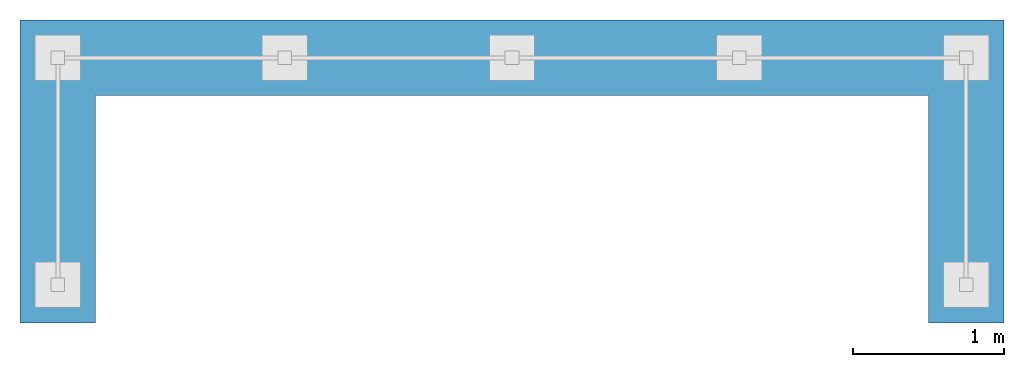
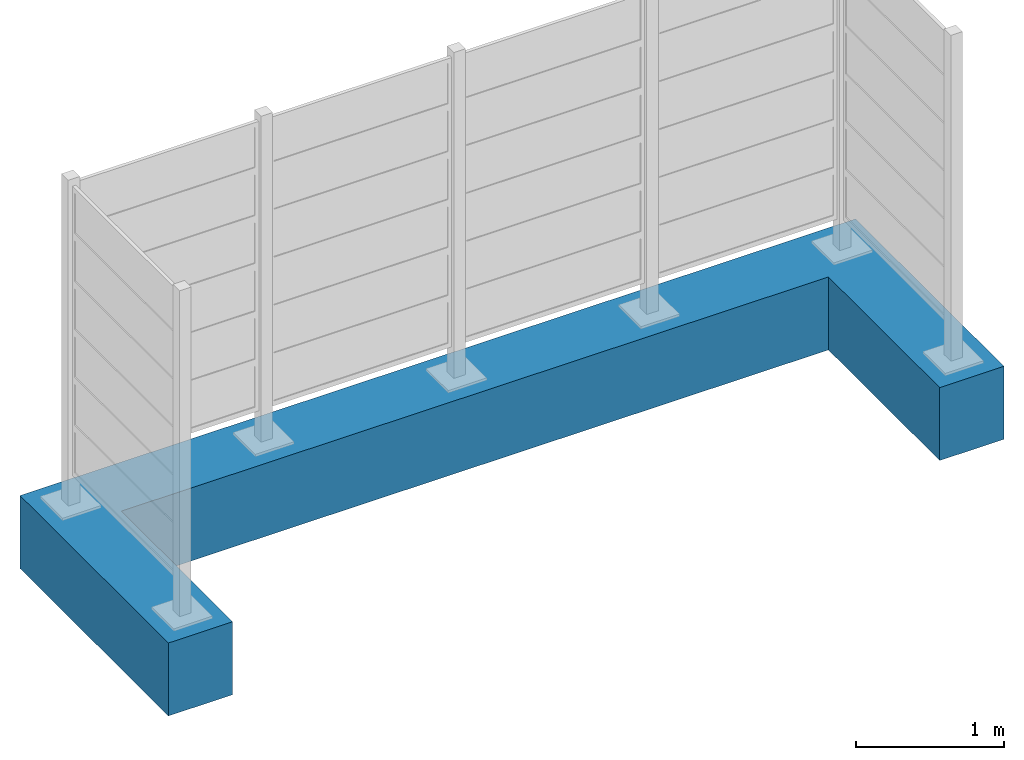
# One storey, incomplete: 1 slab.
"""IFC4 building model written with IfcOpenShell, lengths in metres."""

from ifc_helpers import new_model, entity, si_unit, converted_unit, direction, frame, origin, place, context, subcontext, project, spatial, polyline, outline, extrude, material, type_object, element, save


model = new_model("IFC4")

# Units and contexts
model_context = context("Model", 3, precision=1e-05, world=origin(), true_north=direction((6.123031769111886e-17, 1.0)))
body_context = subcontext(model_context, "Body", "Model", "MODEL_VIEW")
ifc_project = project(units=[si_unit("LENGTHUNIT", "METRE"), converted_unit("PLANEANGLEUNIT", "DEGREE", entity("IfcPlaneAngleMeasure", 0.017453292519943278), si_unit("PLANEANGLEUNIT", "RADIAN"), dimensions=[0, 0, 0, 0, 0, 0, 0]), si_unit("AREAUNIT", "SQUARE_METRE")], contexts=[model_context])

# Site, building, storey
site_placement = place(None, origin())
site = spatial("IfcSite", under=ifc_project, at=site_placement, Name="Default", CompositionType="ELEMENT")
building_placement = place(site_placement, origin())
building = spatial("IfcBuilding", under=site, at=building_placement, CompositionType="ELEMENT")
storey_placement = place(building_placement, origin())
storey = spatial("IfcBuildingStorey", under=building, at=storey_placement, Name="DB_Bezugshoehe_max_Bahnsteigkante", CompositionType="ELEMENT", Elevation=0.0)

# Slab
ifc_material = material(Name="DB_Ortbeton", Category="DB_Beton")
slab_type = type_object("IfcSlabType", Name="DB_Windschutz_4-feldrig_U_Fundament:DB_Windschutz_4-feldrig_U_Fundament", PredefinedType="BASESLAB", material=ifc_material)
slab_placement = place(storey_placement, origin())
element("IfcSlab", 1, at=slab_placement, inside=storey, type_object=slab_type, Name="DB_Windschutz_4-feldrig_U_Fundament:DB_Windschutz_4-feldrig_U_Fundament", ObjectType="DB_Windschutz_4-feldrig_U_Fundament:DB_Windschutz_4-feldrig_U_Fundament", PredefinedType="BASESLAB", context=body_context, shape_type="SweptSolid", body=[
    extrude(outline(polyline([(-3.555555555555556, -1.0), (2.444444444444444, -1.0), (2.9444444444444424, -1.0), (2.9444444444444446, 1.0), (2.444444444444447, 1.0), (2.444444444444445, -0.5000000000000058), (-3.0555555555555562, -0.5000000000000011), (-3.055555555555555, 1.0), (-3.5555555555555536, 1.0), (-3.555555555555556, -1.0)])), frame((2.694444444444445, 0.7499999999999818, 0.0), z_axis=(0.0, 0.0, 1.0), x_axis=(-1.0, 0.0, 0.0)), (0.0, 0.0, 1.0), 0.5999999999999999),
])

save(model, "model.ifc")
